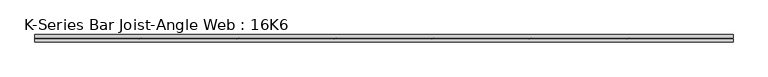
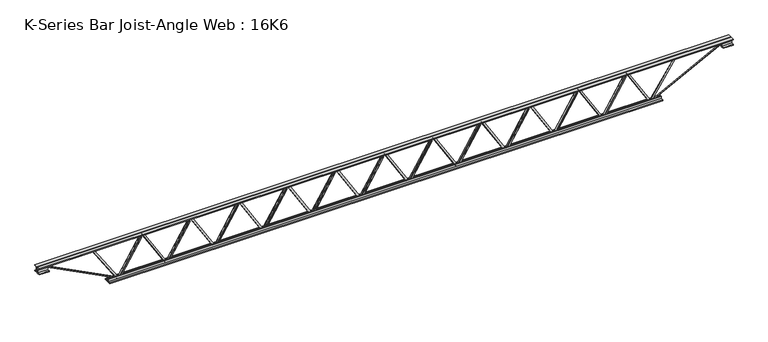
"""IFC4 building model written with IfcOpenShell, lengths in millimetres: beam geometry, K-Series Bar Joist-Angle Web : 16K6."""

import ifcopenshell
import ifcopenshell.guid

model = None  # the IFC model being written
_history = None  # IfcOwnerHistory: only IFC2X3 demands one
_inside = {}  # id of a spatial element -> (the spatial element, [elements in it])
_under = {}  # id of a project, library or spatial element -> (it, [spatial elements below it])
_declared = {}  # id of a project -> (the project, [libraries it declares])
_typed = {}  # id of a type object -> (the type object, [elements of that type])
_made_of = {}  # id of a material, layer set ... -> (it, [elements and type objects made of it])


def new_model(schema):
    """Start an empty IFC model of exactly this schema.

    Asked for "IFC4X3", IfcOpenShell would pick the latest addendum, in which some entities
    have other attributes; the version numbers below select the first issue.
    IFC2X3 requires an IfcOwnerHistory on every rooted entity: one is made here for all.
    """
    global model, _history
    if schema == "IFC4X3":
        model = ifcopenshell.file(schema_version=(4, 3, 0, 0))
    else:
        model = ifcopenshell.file(schema=schema)
    _inside.clear()
    _under.clear()
    _declared.clear()
    _typed.clear()
    _made_of.clear()
    _history = None
    if model.schema == "IFC2X3":
        org = make("IfcOrganization", Name="unknown")
        user = make(
            "IfcPersonAndOrganization",
            ThePerson=make("IfcPerson", FamilyName="unknown"),
            TheOrganization=org,
        )
        app = make(
            "IfcApplication",
            ApplicationDeveloper=org,
            Version="unknown",
            ApplicationFullName="unknown",
            ApplicationIdentifier="unknown",
        )
        _history = make(
            "IfcOwnerHistory",
            OwningUser=user,
            OwningApplication=app,
            ChangeAction="ADDED",
            CreationDate=0,
        )
    return model


def make(cls, **values):
    """One entity of the class cls with the attributes given. An attribute that is None is left unset."""
    return model.create_entity(
        cls, **{name: value for name, value in values.items() if value is not None}
    )


def rooted(cls, **values):
    """An entity with a GlobalId (a new one), such as an element, a storey or a relation."""
    return make(cls, GlobalId=ifcopenshell.guid.new(), OwnerHistory=_history, **values)


def si_unit(unit_type, name, prefix=None):
    """IfcSIUnit, for example si_unit("LENGTHUNIT", "METRE", prefix="MILLI")."""
    return make("IfcSIUnit", UnitType=unit_type, Prefix=prefix, Name=name)


def assignment(units):
    """IfcUnitAssignment: the units of a project."""
    return None if units is None else make("IfcUnitAssignment", Units=units)


def point(xyz):
    """IfcCartesianPoint."""
    return None if xyz is None else make("IfcCartesianPoint", Coordinates=xyz)


def direction(xyz):
    """IfcDirection."""
    return None if xyz is None else make("IfcDirection", DirectionRatios=xyz)


def frame(location, z_axis=None, x_axis=None):
    """IfcAxis2Placement3D, a coordinate frame: its origin and axes. An axis left out is left unset."""
    return make(
        "IfcAxis2Placement3D",
        Location=point(location),
        Axis=direction(z_axis),
        RefDirection=direction(x_axis),
    )


def origin():
    """The frame at (0, 0, 0) with its axes left unset."""
    return frame((0.0, 0.0, 0.0))


def place(relative_to, where):
    """IfcLocalPlacement: puts the frame where relative to a parent placement (None: the world)."""
    return make(
        "IfcLocalPlacement", PlacementRelTo=relative_to, RelativePlacement=where
    )


def context(
    kind, dimensions, precision=None, world=None, true_north=None, identifier=None
):
    """IfcGeometricRepresentationContext, for example the 3D "Model" context."""
    return make(
        "IfcGeometricRepresentationContext",
        ContextIdentifier=identifier,
        ContextType=kind,
        CoordinateSpaceDimension=dimensions,
        Precision=precision,
        WorldCoordinateSystem=world,
        TrueNorth=true_north,
    )


def project(units=None, contexts=None):
    """IfcProject with its units and contexts."""
    return rooted(
        "IfcProject",
        Name="project",
        RepresentationContexts=contexts,
        UnitsInContext=assignment(units),
    )


def spatial(cls, under=None, at=None, **own):
    """A site, building, storey or space (cls), placed at a placement, below another one or the project."""
    s = rooted(cls, ObjectPlacement=at, **own)
    if under is not None:
        _under.setdefault(under.id(), (under, []))[1].append(s)
    return s


def polyline(points):
    """IfcPolyline through the points."""
    return make("IfcPolyline", Points=[point(p) for p in points])


def outline(outer, holes=None, kind="AREA"):
    """IfcArbitraryClosedProfileDef: a profile drawn as a closed curve; with holes, ...WithVoids."""
    if holes is None:
        return make("IfcArbitraryClosedProfileDef", ProfileType=kind, OuterCurve=outer)
    return make(
        "IfcArbitraryProfileDefWithVoids",
        ProfileType=kind,
        OuterCurve=outer,
        InnerCurves=holes,
    )


def extrude(swept, where, along, depth):
    """IfcExtrudedAreaSolid: the profile swept, set in the frame where, extruded along a direction by depth."""
    return make(
        "IfcExtrudedAreaSolid",
        SweptArea=swept,
        Position=where,
        ExtrudedDirection=direction(along),
        Depth=depth,
    )


def faces_of(points, faces, orient=None, outer=None):
    """IfcFace entities. A face is a list of loops; a loop is a list of indices into points, from 0.

    orient and outer hold one flag for each loop. By default every Orientation is true, the
    first loop of a face is its IfcFaceOuterBound and the others are IfcFaceBound.
    """
    made = []
    for i, loops in enumerate(faces):
        bounds = []
        for j, loop in enumerate(loops):
            is_outer = j == 0 if outer is None else outer[i][j]
            bounds.append(
                make(
                    "IfcFaceOuterBound" if is_outer else "IfcFaceBound",
                    Bound=make("IfcPolyLoop", Polygon=[points[k] for k in loop]),
                    Orientation=True if orient is None else orient[i][j],
                )
            )
        made.append(make("IfcFace", Bounds=bounds))
    return made


def faceted_brep(points, faces, orient=None, outer=None, voids=None):
    """IfcFacetedBrep: a solid bounded by flat faces; with voids (closed shells), ...WithVoids."""
    shared = [point(p) for p in points]
    hull = make("IfcClosedShell", CfsFaces=faces_of(shared, faces, orient, outer))
    if voids is None:
        return make("IfcFacetedBrep", Outer=hull)
    return make(
        "IfcFacetedBrepWithVoids",
        Outer=hull,
        Voids=[
            make(cls, CfsFaces=faces_of(shared, fs, o, b)) for cls, fs, o, b in voids
        ],
    )


def shape(context_of_items, identifier, shape_type, items):
    """IfcShapeRepresentation: the items that make up one representation, for example the "Body"."""
    return make(
        "IfcShapeRepresentation",
        ContextOfItems=context_of_items,
        RepresentationIdentifier=identifier,
        RepresentationType=shape_type,
        Items=items,
    )


def source(mapping_origin, context_of_items, identifier, shape_type, items):
    """IfcRepresentationMap: a shape defined once, which mapped items show again and again."""
    return make(
        "IfcRepresentationMap",
        MappingOrigin=mapping_origin,
        MappedRepresentation=shape(context_of_items, identifier, shape_type, items),
    )


def transform(
    local_origin,
    x_axis=None,
    y_axis=None,
    z_axis=None,
    scale=None,
    scale2=None,
    scale3=None,
    uniform=True,
):
    """IfcCartesianTransformationOperator3D, or its non-uniform kind. x_axis, y_axis, z_axis: its Axis1, 2, 3."""
    if uniform:
        return make(
            "IfcCartesianTransformationOperator3D",
            Axis1=direction(x_axis),
            Axis2=direction(y_axis),
            LocalOrigin=point(local_origin),
            Scale=scale,
            Axis3=direction(z_axis),
        )
    return make(
        "IfcCartesianTransformationOperator3DnonUniform",
        Axis1=direction(x_axis),
        Axis2=direction(y_axis),
        LocalOrigin=point(local_origin),
        Scale=scale,
        Axis3=direction(z_axis),
        Scale2=scale2,
        Scale3=scale3,
    )


def mapped(mapping_source, mapping_target):
    """IfcMappedItem: shows the shape of a source again, moved by a transform."""
    return make(
        "IfcMappedItem", MappingSource=mapping_source, MappingTarget=mapping_target
    )


def made_of(thing, what):
    """Note that an element or type object is made of a material, layer set ...; save() writes the relation."""
    if what is not None:
        _made_of.setdefault(what.id(), (what, []))[1].append(thing)
    return thing


def element(
    cls,
    number,
    at=None,
    inside=None,
    cuts=None,
    type_object=None,
    material=None,
    context=None,
    identifier="Body",
    shape_type=None,
    held_by="IfcProductDefinitionShape",
    body=None,
    shapes=None,
    **own,
):
    """One element of the class cls, such as IfcWall. Its Tag is "e" and its number.

    at: its placement. inside: the storey or other place that contains it. cuts: it is an
    opening in that element (IfcRelVoidsElement). A single representation is given by context,
    identifier, shape_type and body (its items); several are given by shapes. held_by: the class
    of the entity that holds the representations. save() writes the other relations.
    """
    e = rooted(cls, Tag="e%d" % number, ObjectPlacement=at, **own)
    if body is not None:
        shapes = [shape(context, identifier, shape_type, body)]
    if shapes is not None:
        e.Representation = make(held_by, Representations=shapes)
    if inside is not None:
        _inside.setdefault(inside.id(), (inside, []))[1].append(e)
    if cuts is not None:
        rooted(
            "IfcRelVoidsElement", RelatingBuildingElement=cuts, RelatedOpeningElement=e
        )
    if type_object is not None:
        _typed.setdefault(type_object.id(), (type_object, []))[1].append(e)
    return made_of(e, material)


def aggregate(whole, parts):
    """IfcRelAggregates: a whole, such as a stair, and the parts it consists of."""
    return rooted("IfcRelAggregates", RelatingObject=whole, RelatedObjects=parts)


def save(model, path):
    """Write the relations noted so far, then the file.

    IfcRelAggregates (storeys below a building ...), IfcRelContainedInSpatialStructure (elements
    in a storey), IfcRelDefinesByType, IfcRelAssociatesMaterial and IfcRelDeclares: one each for
    every whole, place, type object, material and project.
    """
    for whole, parts in _under.values():
        aggregate(whole, parts)
    for where, things in _inside.values():
        rooted(
            "IfcRelContainedInSpatialStructure",
            RelatedElements=things,
            RelatingStructure=where,
        )
    for kind, things in _typed.values():
        rooted("IfcRelDefinesByType", RelatedObjects=things, RelatingType=kind)
    for what, things in _made_of.values():
        rooted("IfcRelAssociatesMaterial", RelatedObjects=things, RelatingMaterial=what)
    for by, libraries in _declared.values():
        rooted("IfcRelDeclares", RelatingContext=by, RelatedDefinitions=libraries)
    model.write(path)


def k_series_bar_joist_angle_web_16k6_8427851a(model_context):
    return source(origin(), model_context, "Body", "SolidModel", [
        extrude(outline(polyline([(-4.75, 4.7625), (-4.75, 0.0), (-17.45, 0.0), (-17.45, 4.7625), (-4.75, 4.7625)])), frame((2167.1169932, 0.0, -164.9), z_axis=(-0.5200116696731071, 0.0, 0.8541591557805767), x_axis=(0.0, -1.0, 0.0)), (0.0, 0.0, 1.0), 386.1107122),
        extrude(outline(polyline([(-199.825, 2200.0818182), (-180.775, 2200.0818182), (-180.775, 2199.0843205), (199.825, 1967.3752296), (199.825, 1949.3227273), (180.775, 1949.3227273), (180.775, 1956.670225), (-199.825, 2188.3793159), (-199.825, 2200.0818182)])), frame((0.0, 0.0, 0.0), z_axis=(0.0, 1.0, 0.0), x_axis=(0.0, 0.0, 1.0)), (0.0, 0.0, 1.0), 4.75),
        faceted_brep([(1711.2636364, 0.0, -180.775), (1711.2636364, 0.0, -199.825), (1711.2636364, -4.75, -199.825), (1711.2636364, -4.75, -180.775), (1712.2611341, 0.0, -180.775), (1943.970225, 0.0, 199.825), (1962.0227273, 0.0, 199.825), (1962.0227273, 0.0, 180.775), (1954.6752296, 0.0, 180.775), (1722.9661387, 0.0, -199.825), (1722.9661387, -4.75, -199.825), (1744.2284613, -4.75, -164.9), (1740.1605283, -4.75, -162.4234444), (1940.9426045, -4.75, 167.3765556), (1945.0105375, -4.75, 164.9), (1954.6752296, -4.75, 180.775), (1962.0227273, -4.75, 180.775), (1962.0227273, -4.75, 199.825), (1943.970225, -4.75, 199.825), (1712.2611341, -4.75, -180.775), (1945.0105375, -17.4625, 164.9), (1744.2284613, -17.4625, -164.9), (1740.1605283, -17.4625, -162.4234444), (1940.9426045, -17.4625, 167.3765556)], [[[0, 1, 2, 3]], [[1, 0, 4, 5, 6, 7, 8, 9]], [[2, 1, 9, 10]], [[3, 2, 10, 11, 12, 13, 14, 15, 16, 17, 18, 19]], [[0, 3, 19, 4]], [[9, 8, 15, 14, 20, 21, 11, 10]], [[5, 4, 19, 18]], [[7, 6, 17, 16]], [[8, 7, 16, 15]], [[6, 5, 18, 17]], [[21, 22, 12, 11]], [[20, 14, 13, 23]], [[22, 21, 20, 23]], [[12, 22, 23, 13]]]),
        extrude(outline(polyline([(-4.75, 4.7625), (-4.75, 0.0), (-17.45, 0.0), (-17.45, 4.7625), (-4.75, 4.7625)])), frame((1678.1988114, 0.0, -164.9), z_axis=(-0.5200116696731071, 0.0, 0.8541591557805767), x_axis=(0.0, -1.0, 0.0)), (0.0, 0.0, 1.0), 386.1107122),
        extrude(outline(polyline([(-199.825, 1711.1636364), (-180.775, 1711.1636364), (-180.775, 1710.1661387), (199.825, 1478.4570478), (199.825, 1460.4045455), (180.775, 1460.4045455), (180.775, 1467.7520432), (-199.825, 1699.4611341), (-199.825, 1711.1636364)])), frame((0.0, 0.0, 0.0), z_axis=(0.0, 1.0, 0.0), x_axis=(0.0, 0.0, 1.0)), (0.0, 0.0, 1.0), 4.75),
        faceted_brep([(1222.3454545, 0.0, -180.775), (1222.3454545, 0.0, -199.825), (1222.3454545, -4.75, -199.825), (1222.3454545, -4.75, -180.775), (1223.3429522, 0.0, -180.775), (1455.0520432, 0.0, 199.825), (1473.1045455, 0.0, 199.825), (1473.1045455, 0.0, 180.775), (1465.7570478, 0.0, 180.775), (1234.0479568, 0.0, -199.825), (1234.0479568, -4.75, -199.825), (1255.3102795, -4.75, -164.9), (1251.2423465, -4.75, -162.4234444), (1452.0244227, -4.75, 167.3765556), (1456.0923556, -4.75, 164.9), (1465.7570478, -4.75, 180.775), (1473.1045455, -4.75, 180.775), (1473.1045455, -4.75, 199.825), (1455.0520432, -4.75, 199.825), (1223.3429522, -4.75, -180.775), (1456.0923556, -17.4625, 164.9), (1255.3102795, -17.4625, -164.9), (1251.2423465, -17.4625, -162.4234444), (1452.0244227, -17.4625, 167.3765556)], [[[0, 1, 2, 3]], [[1, 0, 4, 5, 6, 7, 8, 9]], [[2, 1, 9, 10]], [[3, 2, 10, 11, 12, 13, 14, 15, 16, 17, 18, 19]], [[0, 3, 19, 4]], [[9, 8, 15, 14, 20, 21, 11, 10]], [[5, 4, 19, 18]], [[7, 6, 17, 16]], [[8, 7, 16, 15]], [[6, 5, 18, 17]], [[21, 22, 12, 11]], [[20, 14, 13, 23]], [[22, 21, 20, 23]], [[12, 22, 23, 13]]]),
        extrude(outline(polyline([(-4.75, 4.7625), (-4.75, 0.0), (-17.45, 0.0), (-17.45, 4.7625), (-4.75, 4.7625)])), frame((1189.2806296, 0.0, -164.9), z_axis=(-0.5200116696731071, 0.0, 0.8541591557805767), x_axis=(0.0, -1.0, 0.0)), (0.0, 0.0, 1.0), 386.1107122),
        extrude(outline(polyline([(-199.825, 1222.2454545), (-180.775, 1222.2454545), (-180.775, 1221.2479568), (199.825, 989.5388659), (199.825, 971.4863636), (180.775, 971.4863636), (180.775, 978.8338613), (-199.825, 1210.5429522), (-199.825, 1222.2454545)])), frame((0.0, 0.0, 0.0), z_axis=(0.0, 1.0, 0.0), x_axis=(0.0, 0.0, 1.0)), (0.0, 0.0, 1.0), 4.75),
        faceted_brep([(733.4272727, 0.0, -180.775), (733.4272727, 0.0, -199.825), (733.4272727, -4.75, -199.825), (733.4272727, -4.75, -180.775), (734.4247704, 0.0, -180.775), (966.1338613, 0.0, 199.825), (984.1863636, 0.0, 199.825), (984.1863636, 0.0, 180.775), (976.8388659, 0.0, 180.775), (745.129775, 0.0, -199.825), (745.129775, -4.75, -199.825), (766.3920977, -4.75, -164.9), (762.3241647, -4.75, -162.4234444), (963.1062408, -4.75, 167.3765556), (967.1741738, -4.75, 164.9), (976.8388659, -4.75, 180.775), (984.1863636, -4.75, 180.775), (984.1863636, -4.75, 199.825), (966.1338613, -4.75, 199.825), (734.4247704, -4.75, -180.775), (967.1741738, -17.4625, 164.9), (766.3920977, -17.4625, -164.9), (762.3241647, -17.4625, -162.4234444), (963.1062408, -17.4625, 167.3765556)], [[[0, 1, 2, 3]], [[1, 0, 4, 5, 6, 7, 8, 9]], [[2, 1, 9, 10]], [[3, 2, 10, 11, 12, 13, 14, 15, 16, 17, 18, 19]], [[0, 3, 19, 4]], [[9, 8, 15, 14, 20, 21, 11, 10]], [[5, 4, 19, 18]], [[7, 6, 17, 16]], [[8, 7, 16, 15]], [[6, 5, 18, 17]], [[21, 22, 12, 11]], [[20, 14, 13, 23]], [[22, 21, 20, 23]], [[12, 22, 23, 13]]]),
        extrude(outline(polyline([(-4.75, 4.7625), (-4.75, 0.0), (-17.45, 0.0), (-17.45, 4.7625), (-4.75, 4.7625)])), frame((700.3624478, 0.0, -164.9), z_axis=(-0.5200116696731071, 0.0, 0.8541591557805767), x_axis=(0.0, -1.0, 0.0)), (0.0, 0.0, 1.0), 386.1107122),
        extrude(outline(polyline([(-199.825, 733.3272727), (-180.775, 733.3272727), (-180.775, 732.329775), (199.825, 500.6206841), (199.825, 482.5681818), (180.775, 482.5681818), (180.775, 489.9156795), (-199.825, 721.6247704), (-199.825, 733.3272727)])), frame((0.0, 0.0, 0.0), z_axis=(0.0, 1.0, 0.0), x_axis=(0.0, 0.0, 1.0)), (0.0, 0.0, 1.0), 4.75),
        faceted_brep([(244.5090909, 0.0, -180.775), (244.5090909, 0.0, -199.825), (244.5090909, -4.75, -199.825), (244.5090909, -4.75, -180.775), (245.5065886, 0.0, -180.775), (477.2156795, 0.0, 199.825), (495.2681818, 0.0, 199.825), (495.2681818, 0.0, 180.775), (487.9206841, 0.0, 180.775), (256.2115932, 0.0, -199.825), (256.2115932, -4.75, -199.825), (277.4739159, -4.75, -164.9), (273.4059829, -4.75, -162.4234444), (474.188059, -4.75, 167.3765556), (478.255992, -4.75, 164.9), (487.9206841, -4.75, 180.775), (495.2681818, -4.75, 180.775), (495.2681818, -4.75, 199.825), (477.2156795, -4.75, 199.825), (245.5065886, -4.75, -180.775), (478.255992, -17.4625, 164.9), (277.4739159, -17.4625, -164.9), (273.4059829, -17.4625, -162.4234444), (474.188059, -17.4625, 167.3765556)], [[[0, 1, 2, 3]], [[1, 0, 4, 5, 6, 7, 8, 9]], [[2, 1, 9, 10]], [[3, 2, 10, 11, 12, 13, 14, 15, 16, 17, 18, 19]], [[0, 3, 19, 4]], [[9, 8, 15, 14, 20, 21, 11, 10]], [[5, 4, 19, 18]], [[7, 6, 17, 16]], [[8, 7, 16, 15]], [[6, 5, 18, 17]], [[21, 22, 12, 11]], [[20, 14, 13, 23]], [[22, 21, 20, 23]], [[12, 22, 23, 13]]]),
        extrude(outline(polyline([(-4.75, 4.7624999), (-4.75, 0.0), (-17.45, 0.0), (-17.45, 4.7624999), (-4.75, 4.7624999)])), frame((211.444266, 0.0, -164.9), z_axis=(-0.5200116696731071, 0.0, 0.8541591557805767), x_axis=(0.0, -1.0, 0.0)), (0.0, 0.0, 1.0), 386.1107122),
        extrude(outline(polyline([(-199.825, 244.4090909), (-180.775, 244.4090909), (-180.775, 243.4115932), (199.825, 11.7025023), (199.825, -6.35), (180.775, -6.35), (180.775, 0.9974977), (-199.825, 232.7065886), (-199.825, 244.4090909)])), frame((0.0, 0.0, 0.0), z_axis=(0.0, 1.0, 0.0), x_axis=(0.0, 0.0, 1.0)), (0.0, 0.0, 1.0), 4.75),
        faceted_brep([(-244.4090909, 0.0, -180.775), (-244.4090909, 0.0, -199.825), (-244.4090909, -4.75, -199.825), (-244.4090909, -4.75, -180.775), (-243.4115932, 0.0, -180.775), (-11.7025023, 0.0, 199.825), (6.35, 0.0, 199.825), (6.35, 0.0, 180.775), (-0.9974977, 0.0, 180.775), (-232.7065886, 0.0, -199.825), (-232.7065886, -4.75, -199.825), (-211.444266, -4.75, -164.9), (-215.5121989, -4.75, -162.4234444), (-14.7301228, -4.75, 167.3765556), (-10.6621898, -4.75, 164.9), (-0.9974977, -4.75, 180.775), (6.35, -4.75, 180.775), (6.35, -4.75, 199.825), (-11.7025023, -4.75, 199.825), (-243.4115932, -4.75, -180.775), (-10.6621898, -17.4625, 164.9), (-211.444266, -17.4625, -164.9), (-215.5121989, -17.4625, -162.4234444), (-14.7301228, -17.4625, 167.3765556)], [[[0, 1, 2, 3]], [[1, 0, 4, 5, 6, 7, 8, 9]], [[2, 1, 9, 10]], [[3, 2, 10, 11, 12, 13, 14, 15, 16, 17, 18, 19]], [[0, 3, 19, 4]], [[9, 8, 15, 14, 20, 21, 11, 10]], [[5, 4, 19, 18]], [[7, 6, 17, 16]], [[8, 7, 16, 15]], [[6, 5, 18, 17]], [[21, 22, 12, 11]], [[20, 14, 13, 23]], [[22, 21, 20, 23]], [[12, 22, 23, 13]]]),
        extrude(outline(polyline([(-4.75, 4.7625), (-4.75, 0.0), (-17.45, 0.0), (-17.45, 4.7625), (-4.75, 4.7625)])), frame((-277.4739159, 0.0, -164.9), z_axis=(-0.5200116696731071, 0.0, 0.8541591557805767), x_axis=(0.0, -1.0, 0.0)), (0.0, 0.0, 1.0), 386.1107122),
        extrude(outline(polyline([(-199.825, -244.5090909), (-180.775, -244.5090909), (-180.775, -245.5065886), (199.825, -477.2156795), (199.825, -495.2681818), (180.775, -495.2681818), (180.775, -487.9206841), (-199.825, -256.2115932), (-199.825, -244.5090909)])), frame((0.0, 0.0, 0.0), z_axis=(0.0, 1.0, 0.0), x_axis=(0.0, 0.0, 1.0)), (0.0, 0.0, 1.0), 4.75),
        faceted_brep([(-733.3272727, 0.0, -180.775), (-733.3272727, 0.0, -199.825), (-733.3272727, -4.75, -199.825), (-733.3272727, -4.75, -180.775), (-732.329775, 0.0, -180.775), (-500.6206841, 0.0, 199.825), (-482.5681818, 0.0, 199.825), (-482.5681818, 0.0, 180.775), (-489.9156795, 0.0, 180.775), (-721.6247704, 0.0, -199.825), (-721.6247704, -4.75, -199.825), (-700.3624478, -4.75, -164.9), (-704.4303808, -4.75, -162.4234444), (-503.6483046, -4.75, 167.3765556), (-499.5803716, -4.75, 164.9), (-489.9156795, -4.75, 180.775), (-482.5681818, -4.75, 180.775), (-482.5681818, -4.75, 199.825), (-500.6206841, -4.75, 199.825), (-732.329775, -4.75, -180.775), (-499.5803716, -17.4625, 164.9), (-700.3624478, -17.4625, -164.9), (-704.4303808, -17.4625, -162.4234444), (-503.6483046, -17.4625, 167.3765556)], [[[0, 1, 2, 3]], [[1, 0, 4, 5, 6, 7, 8, 9]], [[2, 1, 9, 10]], [[3, 2, 10, 11, 12, 13, 14, 15, 16, 17, 18, 19]], [[0, 3, 19, 4]], [[9, 8, 15, 14, 20, 21, 11, 10]], [[5, 4, 19, 18]], [[7, 6, 17, 16]], [[8, 7, 16, 15]], [[6, 5, 18, 17]], [[21, 22, 12, 11]], [[20, 14, 13, 23]], [[22, 21, 20, 23]], [[12, 22, 23, 13]]]),
        extrude(outline(polyline([(-4.75, 4.7625), (-4.75, 0.0), (-17.45, 0.0), (-17.45, 4.7625), (-4.75, 4.7625)])), frame((-766.3920977, 0.0, -164.9), z_axis=(-0.5200116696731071, 0.0, 0.8541591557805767), x_axis=(0.0, -1.0, 0.0)), (0.0, 0.0, 1.0), 386.1107122),
        extrude(outline(polyline([(-199.825, -733.4272727), (-180.775, -733.4272727), (-180.775, -734.4247704), (199.825, -966.1338613), (199.825, -984.1863636), (180.775, -984.1863636), (180.775, -976.8388659), (-199.825, -745.129775), (-199.825, -733.4272727)])), frame((0.0, 0.0, 0.0), z_axis=(0.0, 1.0, 0.0), x_axis=(0.0, 0.0, 1.0)), (0.0, 0.0, 1.0), 4.75),
        faceted_brep([(-1222.2454545, 0.0, -180.775), (-1222.2454545, 0.0, -199.825), (-1222.2454545, -4.75, -199.825), (-1222.2454545, -4.75, -180.775), (-1221.2479568, 0.0, -180.775), (-989.5388659, 0.0, 199.825), (-971.4863636, 0.0, 199.825), (-971.4863636, 0.0, 180.775), (-978.8338613, 0.0, 180.775), (-1210.5429522, 0.0, -199.825), (-1210.5429522, -4.75, -199.825), (-1189.2806296, -4.75, -164.9), (-1193.3485626, -4.75, -162.4234444), (-992.5664864, -4.75, 167.3765556), (-988.4985534, -4.75, 164.9), (-978.8338613, -4.75, 180.775), (-971.4863636, -4.75, 180.775), (-971.4863636, -4.75, 199.825), (-989.5388659, -4.75, 199.825), (-1221.2479568, -4.75, -180.775), (-988.4985534, -17.4625, 164.9), (-1189.2806296, -17.4625, -164.9), (-1193.3485626, -17.4625, -162.4234444), (-992.5664864, -17.4625, 167.3765556)], [[[0, 1, 2, 3]], [[1, 0, 4, 5, 6, 7, 8, 9]], [[2, 1, 9, 10]], [[3, 2, 10, 11, 12, 13, 14, 15, 16, 17, 18, 19]], [[0, 3, 19, 4]], [[9, 8, 15, 14, 20, 21, 11, 10]], [[5, 4, 19, 18]], [[7, 6, 17, 16]], [[8, 7, 16, 15]], [[6, 5, 18, 17]], [[21, 22, 12, 11]], [[20, 14, 13, 23]], [[22, 21, 20, 23]], [[12, 22, 23, 13]]]),
        extrude(outline(polyline([(-4.75, 4.7625), (-4.75, 0.0), (-17.45, 0.0), (-17.45, 4.7625), (-4.75, 4.7625)])), frame((-1255.3102795, 0.0, -164.9), z_axis=(-0.5200116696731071, 0.0, 0.8541591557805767), x_axis=(0.0, -1.0, 0.0)), (0.0, 0.0, 1.0), 386.1107122),
        extrude(outline(polyline([(-199.825, -1222.3454545), (-180.775, -1222.3454545), (-180.775, -1223.3429522), (199.825, -1455.0520432), (199.825, -1473.1045455), (180.775, -1473.1045455), (180.775, -1465.7570478), (-199.825, -1234.0479568), (-199.825, -1222.3454545)])), frame((0.0, 0.0, 0.0), z_axis=(0.0, 1.0, 0.0), x_axis=(0.0, 0.0, 1.0)), (0.0, 0.0, 1.0), 4.75),
        faceted_brep([(-1711.1636364, 0.0, -180.775), (-1711.1636364, 0.0, -199.825), (-1711.1636364, -4.75, -199.825), (-1711.1636364, -4.75, -180.775), (-1710.1661387, 0.0, -180.775), (-1478.4570478, 0.0, 199.825), (-1460.4045455, 0.0, 199.825), (-1460.4045455, 0.0, 180.775), (-1467.7520432, 0.0, 180.775), (-1699.4611341, 0.0, -199.825), (-1699.4611341, -4.75, -199.825), (-1678.1988114, -4.75, -164.9), (-1682.2667444, -4.75, -162.4234444), (-1481.4846682, -4.75, 167.3765556), (-1477.4167353, -4.75, 164.9), (-1467.7520432, -4.75, 180.775), (-1460.4045455, -4.75, 180.775), (-1460.4045455, -4.75, 199.825), (-1478.4570478, -4.75, 199.825), (-1710.1661387, -4.75, -180.775), (-1477.4167353, -17.4625, 164.9), (-1678.1988114, -17.4625, -164.9), (-1682.2667444, -17.4625, -162.4234444), (-1481.4846682, -17.4625, 167.3765556)], [[[0, 1, 2, 3]], [[1, 0, 4, 5, 6, 7, 8, 9]], [[2, 1, 9, 10]], [[3, 2, 10, 11, 12, 13, 14, 15, 16, 17, 18, 19]], [[0, 3, 19, 4]], [[9, 8, 15, 14, 20, 21, 11, 10]], [[5, 4, 19, 18]], [[7, 6, 17, 16]], [[8, 7, 16, 15]], [[6, 5, 18, 17]], [[21, 22, 12, 11]], [[20, 14, 13, 23]], [[22, 21, 20, 23]], [[12, 22, 23, 13]]]),
        extrude(outline(polyline([(-4.75, 4.7625), (-4.75, 0.0), (-17.45, 0.0), (-17.45, 4.7625), (-4.75, 4.7625)])), frame((-1744.2284613, 0.0, -164.9), z_axis=(-0.5200116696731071, 0.0, 0.8541591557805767), x_axis=(0.0, -1.0, 0.0)), (0.0, 0.0, 1.0), 386.1107122),
        extrude(outline(polyline([(-199.825, -1711.2636364), (-180.775, -1711.2636364), (-180.775, -1712.2611341), (199.825, -1943.970225), (199.825, -1962.0227273), (180.775, -1962.0227273), (180.775, -1954.6752296), (-199.825, -1722.9661387), (-199.825, -1711.2636364)])), frame((0.0, 0.0, 0.0), z_axis=(0.0, 1.0, 0.0), x_axis=(0.0, 0.0, 1.0)), (0.0, 0.0, 1.0), 4.75),
        faceted_brep([(-2200.0818182, 0.0, -180.775), (-2200.0818182, 0.0, -199.825), (-2200.0818182, -4.75, -199.825), (-2200.0818182, -4.75, -180.775), (-2199.0843205, 0.0, -180.775), (-1967.3752296, 0.0, 199.825), (-1949.3227273, 0.0, 199.825), (-1949.3227273, 0.0, 180.775), (-1956.670225, 0.0, 180.775), (-2188.3793159, 0.0, -199.825), (-2188.3793159, -4.75, -199.825), (-2167.1169932, -4.75, -164.9), (-2171.1849262, -4.75, -162.4234444), (-1970.4028501, -4.75, 167.3765556), (-1966.3349171, -4.75, 164.9), (-1956.670225, -4.75, 180.775), (-1949.3227273, -4.75, 180.775), (-1949.3227273, -4.75, 199.825), (-1967.3752296, -4.75, 199.825), (-2199.0843205, -4.75, -180.775), (-1966.3349171, -17.4625, 164.9), (-2167.1169932, -17.4625, -164.9), (-2171.1849262, -17.4625, -162.4234444), (-1970.4028501, -17.4625, 167.3765556)], [[[0, 1, 2, 3]], [[1, 0, 4, 5, 6, 7, 8, 9]], [[2, 1, 9, 10]], [[3, 2, 10, 11, 12, 13, 14, 15, 16, 17, 18, 19]], [[0, 3, 19, 4]], [[9, 8, 15, 14, 20, 21, 11, 10]], [[5, 4, 19, 18]], [[7, 6, 17, 16]], [[8, 7, 16, 15]], [[6, 5, 18, 17]], [[21, 22, 12, 11]], [[20, 14, 13, 23]], [[22, 21, 20, 23]], [[12, 22, 23, 13]]]),
        extrude(outline(polyline([(-4.75, 4.7624999), (-4.75, 0.0), (-17.45, 0.0), (-17.45, 4.7624999), (-4.75, 4.7624999)])), frame((2656.0351751, 0.0, -164.9), z_axis=(-0.5200116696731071, 0.0, 0.8541591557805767), x_axis=(0.0, -1.0, 0.0)), (0.0, 0.0, 1.0), 386.1107122),
        extrude(outline(polyline([(-199.825, 2689.0), (-180.775, 2689.0), (-180.775, 2688.0025023), (199.825, 2456.2934114), (199.825, 2438.2409091), (180.775, 2438.2409091), (180.775, 2445.5884068), (-199.825, 2677.2974977), (-199.825, 2689.0)])), frame((0.0, 0.0, 0.0), z_axis=(0.0, 1.0, 0.0), x_axis=(0.0, 0.0, 1.0)), (0.0, 0.0, 1.0), 4.75),
        faceted_brep([(2200.1818182, 0.0, -180.775), (2200.1818182, 0.0, -199.825), (2200.1818182, -4.75, -199.825), (2200.1818182, -4.75, -180.775), (2201.1793159, 0.0, -180.775), (2432.8884068, 0.0, 199.825), (2450.9409091, 0.0, 199.825), (2450.9409091, 0.0, 180.775), (2443.5934114, 0.0, 180.775), (2211.8843205, 0.0, -199.825), (2211.8843205, -4.75, -199.825), (2233.1466431, -4.75, -164.9), (2229.0787102, -4.75, -162.4234444), (2429.8607863, -4.75, 167.3765556), (2433.9287193, -4.75, 164.9), (2443.5934114, -4.75, 180.775), (2450.9409091, -4.75, 180.775), (2450.9409091, -4.75, 199.825), (2432.8884068, -4.75, 199.825), (2201.1793159, -4.75, -180.775), (2433.9287193, -17.4625, 164.9), (2233.1466431, -17.4625, -164.9), (2229.0787102, -17.4625, -162.4234444), (2429.8607863, -17.4625, 167.3765556)], [[[0, 1, 2, 3]], [[1, 0, 4, 5, 6, 7, 8, 9]], [[2, 1, 9, 10]], [[3, 2, 10, 11, 12, 13, 14, 15, 16, 17, 18, 19]], [[0, 3, 19, 4]], [[9, 8, 15, 14, 20, 21, 11, 10]], [[5, 4, 19, 18]], [[7, 6, 17, 16]], [[8, 7, 16, 15]], [[6, 5, 18, 17]], [[21, 22, 12, 11]], [[20, 14, 13, 23]], [[22, 21, 20, 23]], [[12, 22, 23, 13]]]),
        extrude(outline(polyline([(-4.75, 4.7624999), (-4.75, 0.0), (-17.45, 0.0), (-17.45, 4.7624999), (-4.75, 4.7624999)])), frame((-2233.1466431, 0.0, -164.9), z_axis=(-0.5200116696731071, 0.0, 0.8541591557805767), x_axis=(0.0, -1.0, 0.0)), (0.0, 0.0, 1.0), 386.1107122),
        extrude(outline(polyline([(-199.825, -2200.1818182), (-180.775, -2200.1818182), (-180.775, -2201.1793159), (199.825, -2432.8884068), (199.825, -2450.9409091), (180.775, -2450.9409091), (180.775, -2443.5934114), (-199.825, -2211.8843205), (-199.825, -2200.1818182)])), frame((0.0, 0.0, 0.0), z_axis=(0.0, 1.0, 0.0), x_axis=(0.0, 0.0, 1.0)), (0.0, 0.0, 1.0), 4.75),
        faceted_brep([(-2689.0, 0.0, -180.775), (-2689.0, 0.0, -199.825), (-2689.0, -4.75, -199.825), (-2689.0, -4.75, -180.775), (-2688.0025023, 0.0, -180.775), (-2456.2934114, 0.0, 199.825), (-2438.2409091, 0.0, 199.825), (-2438.2409091, 0.0, 180.775), (-2445.5884068, 0.0, 180.775), (-2677.2974977, 0.0, -199.825), (-2677.2974977, -4.75, -199.825), (-2656.0351751, -4.75, -164.9), (-2660.103108, -4.75, -162.4234444), (-2459.3210319, -4.75, 167.3765556), (-2455.2530989, -4.75, 164.9), (-2445.5884068, -4.75, 180.775), (-2438.2409091, -4.75, 180.775), (-2438.2409091, -4.75, 199.825), (-2456.2934114, -4.75, 199.825), (-2688.0025023, -4.75, -180.775), (-2455.2530989, -17.4625, 164.9), (-2656.0351751, -17.4625, -164.9), (-2660.103108, -17.4625, -162.4234444), (-2459.3210319, -17.4625, 167.3765556)], [[[0, 1, 2, 3]], [[1, 0, 4, 5, 6, 7, 8, 9]], [[2, 1, 9, 10]], [[3, 2, 10, 11, 12, 13, 14, 15, 16, 17, 18, 19]], [[0, 3, 19, 4]], [[9, 8, 15, 14, 20, 21, 11, 10]], [[5, 4, 19, 18]], [[7, 6, 17, 16]], [[8, 7, 16, 15]], [[6, 5, 18, 17]], [[21, 22, 12, 11]], [[20, 14, 13, 23]], [[22, 21, 20, 23]], [[12, 22, 23, 13]]]),
        extrude(outline(polyline([(4.75, 203.0), (36.75, 203.0), (36.75, 196.5), (11.25, 196.5), (11.25, 171.0), (4.75, 171.0), (4.75, 203.0)])), frame((-3501.0, 0.0, 0.0), z_axis=(1.0, 0.0, 0.0), x_axis=(0.0, 1.0, 0.0)), (0.0, 0.0, 1.0), 7002.0),
        extrude(outline(polyline([(-4.75, 203.0), (-4.75, 171.0), (-11.25, 171.0), (-11.25, 196.5), (-36.75, 196.5), (-36.75, 203.0), (-4.75, 203.0)])), frame((-3501.0, 0.0, 0.0), z_axis=(1.0, 0.0, 0.0), x_axis=(0.0, 1.0, 0.0)), (0.0, 0.0, 1.0), 7002.0),
        extrude(outline(polyline([(4.75, -203.0), (4.75, -171.0), (11.25, -171.0), (11.25, -196.5), (36.75, -196.5), (36.75, -203.0), (4.75, -203.0)])), frame((-2789.0, 0.0, 0.0), z_axis=(1.0, 0.0, 0.0), x_axis=(0.0, 1.0, 0.0)), (0.0, 0.0, 1.0), 5578.0),
        extrude(outline(polyline([(-4.75, -203.0), (-36.75, -203.0), (-36.75, -196.5), (-11.25, -196.5), (-11.25, -171.0), (-4.75, -171.0), (-4.75, -203.0)])), frame((-2789.0, 0.0, 0.0), z_axis=(1.0, 0.0, 0.0), x_axis=(0.0, 1.0, 0.0)), (0.0, 0.0, 1.0), 5578.0),
        extrude(outline(polyline([(4.75, 139.5), (4.75, 171.0), (11.25, 171.0), (11.25, 146.0), (36.75, 146.0), (36.75, 139.5), (4.75, 139.5)])), frame((3401.0, 0.0, 0.0), z_axis=(1.0, 0.0, 0.0), x_axis=(0.0, 1.0, 0.0)), (0.0, 0.0, 1.0), 100.0),
        extrude(outline(polyline([(-4.75, 139.5), (-36.75, 139.5), (-36.75, 146.0), (-11.25, 146.0), (-11.25, 171.0), (-4.75, 171.0), (-4.75, 139.5)])), frame((3401.0, 0.0, 0.0), z_axis=(1.0, 0.0, 0.0), x_axis=(0.0, 1.0, 0.0)), (0.0, 0.0, 1.0), 100.0),
        extrude(outline(polyline([(-4.75, 139.5), (-36.75, 139.5), (-36.75, 146.0), (-11.25, 146.0), (-11.25, 171.0), (-4.75, 171.0), (-4.75, 139.5)])), frame((-3501.0, 0.0, 0.0), z_axis=(1.0, 0.0, 0.0), x_axis=(0.0, 1.0, 0.0)), (0.0, 0.0, 1.0), 100.0),
        extrude(outline(polyline([(36.75, 139.5), (4.75, 139.5), (4.75, 171.0), (11.25, 171.0), (11.25, 146.0), (36.75, 146.0), (36.75, 139.5)])), frame((-3501.0, 0.0, 0.0), z_axis=(1.0, 0.0, 0.0), x_axis=(0.0, 1.0, 0.0)), (0.0, 0.0, 1.0), 100.0),
        extrude(outline(polyline([(193.9566712, -2953.3662338), (174.9066712, -2953.3662338), (174.9066712, -2945.5280247), (-201.6379373, -2696.5433598), (-191.1307216, -2680.6530823), (193.9566712, -2935.2865396), (193.9566712, -2953.3662338)])), frame((0.0, 0.0, 0.0), z_axis=(0.0, 1.0, 0.0), x_axis=(0.0, 0.0, 1.0)), (0.0, 0.0, 1.0), 4.7625),
        extrude(outline(polyline([(-4.7625, -10.5646146), (-4.7625, 8.4853853), (0.0, 8.4853853), (0.0, -10.5646146), (-4.7625, -10.5646146)])), frame((2689.0, 0.0, -196.65), z_axis=(0.5536162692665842, 0.0, 0.8327718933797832), x_axis=(0.0, -1.0, 0.0)), (0.0, 0.0, 1.0), 441.4774357),
        extrude(outline(polyline([(-200.8705467, -2691.1793315), (-192.4294533, -2686.8206685), (175.75, -3399.8460208), (175.75, -3501.0), (166.25, -3501.0), (166.25, -3402.1539792), (-200.8705467, -2691.1793315)])), frame((0.0, -4.75, 0.0), z_axis=(0.0, 1.0, 0.0), x_axis=(0.0, 0.0, 1.0)), (0.0, 0.0, 1.0), 9.5),
        extrude(outline(polyline([(0.0, -9.5), (0.0, 0.0), (801.3179909, 0.0), (801.3179909, -9.5), (0.0, -9.5)])), frame((3403.1793315, -4.75, 166.7794533), z_axis=(-0.4588066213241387, 0.0, 0.8885361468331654), x_axis=(-0.8885361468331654, 0.0, -0.4588066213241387)), (0.0, 0.0, 1.0), 9.5),
    ])


if __name__ == "__main__":
    model = new_model("IFC4")
    model_context = context("Model", 3, world=origin())
    ifc_project = project(units=[si_unit("LENGTHUNIT", "METRE", prefix="MILLI")], contexts=[model_context])
    site = spatial("IfcSite", under=ifc_project)
    building = spatial("IfcBuilding", under=site)
    placement = place(None, origin())
    k_series_bar_joist_angle_web_16k6_shape = k_series_bar_joist_angle_web_16k6_8427851a(model_context)
    element("IfcBeam", 1, ObjectType="K-Series Bar Joist-Angle Web : 16K6", at=placement, inside=building, context=model_context, shape_type="MappedRepresentation", body=[
        mapped(k_series_bar_joist_angle_web_16k6_shape, transform((0.0, 0.0, 0.0), x_axis=(1.0, 0.0, 0.0), y_axis=(0.0, 1.0, 0.0), z_axis=(0.0, 0.0, 1.0))),
    ])
    save(model, "model.ifc")
